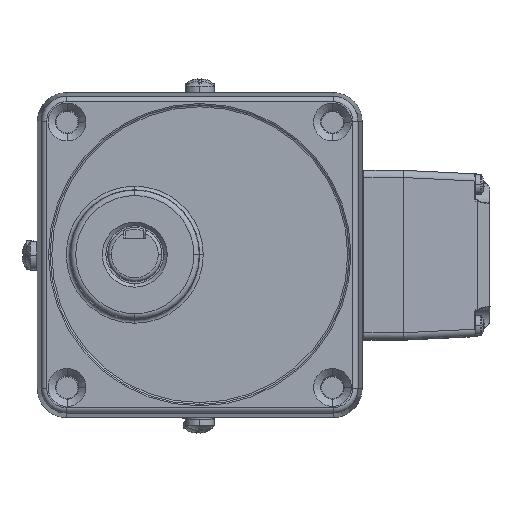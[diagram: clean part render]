
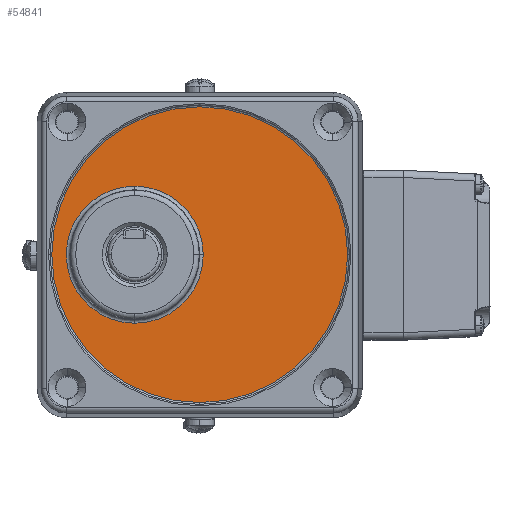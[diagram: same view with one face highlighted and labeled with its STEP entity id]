
A CAD part, top view. The second image highlights one B-rep face of the part: STEP entity #54841.
In plain terms, the highlighted planar face has unit normal (0, 0, 1) as drawn and (1, 0, 0) by its records, which use the part's own axes.
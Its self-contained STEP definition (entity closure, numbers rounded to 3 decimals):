
#913 = AXIS2_PLACEMENT_3D ( 'NONE', #11610, #46456, #34000 ) ;
#1804 = CIRCLE ( 'NONE', #913, 18.983 ) ;
#2780 = DIRECTION ( 'NONE',  ( 0., 0., 1. ) ) ;
#5856 = CARTESIAN_POINT ( 'NONE',  ( 2703.292, -793.157, 18.983 ) ) ;
#6134 = VERTEX_POINT ( 'NONE', #39162 ) ;
#6203 = EDGE_LOOP ( 'NONE', ( #15947, #45541, #19170 ) ) ;
#8407 = DIRECTION ( 'NONE',  ( 0., 0., 1. ) ) ;
#10325 = CARTESIAN_POINT ( 'NONE',  ( 2703.292, -775.157, -40.991 ) ) ;
#11043 = DIRECTION ( 'NONE',  ( 0., 0., 1. ) ) ;
#11610 = CARTESIAN_POINT ( 'NONE',  ( 2703.292, -793.157, 0. ) ) ;
#13164 = DIRECTION ( 'NONE',  ( 0., 0., -1. ) ) ;
#13183 = DIRECTION ( 'NONE',  ( 1., 0., 0. ) ) ;
#13802 = ORIENTED_EDGE ( 'NONE', *, *, #38728, .F. ) ;
#14647 = EDGE_CURVE ( 'NONE', #17825, #6134, #46728, .T. ) ;
#15389 = DIRECTION ( 'NONE',  ( 1., 0., 0. ) ) ;
#15470 = CARTESIAN_POINT ( 'NONE',  ( 2703.292, -774.175, 0. ) ) ;
#15761 = CARTESIAN_POINT ( 'NONE',  ( 2703.292, -793.157, -18.983 ) ) ;
#15947 = ORIENTED_EDGE ( 'NONE', *, *, #17895, .F. ) ;
#16203 = FACE_OUTER_BOUND ( 'NONE', #6203, .T. ) ;
#16918 = AXIS2_PLACEMENT_3D ( 'NONE', #52012, #13183, #8407 ) ;
#17457 = EDGE_CURVE ( 'NONE', #52399, #33079, #1804, .T. ) ;
#17825 = VERTEX_POINT ( 'NONE', #31324 ) ;
#17895 = EDGE_CURVE ( 'NONE', #47461, #17825, #27193, .T. ) ;
#19170 = ORIENTED_EDGE ( 'NONE', *, *, #14647, .F. ) ;
#19387 = EDGE_LOOP ( 'NONE', ( #51643, #13802, #44927 ) ) ;
#19758 = DIRECTION ( 'NONE',  ( -1., 0., 0. ) ) ;
#19933 = CARTESIAN_POINT ( 'NONE',  ( 2703.292, -793.157, 0. ) ) ;
#23285 = EDGE_CURVE ( 'NONE', #43927, #52399, #36594, .T. ) ;
#23894 = DIRECTION ( 'NONE',  ( 0., 0., -1. ) ) ;
#27193 = CIRCLE ( 'NONE', #30818, 40.991 ) ;
#27513 = CARTESIAN_POINT ( 'NONE',  ( 2703.292, -775.157, 0. ) ) ;
#29271 = PLANE ( 'NONE',  #43550 ) ;
#30818 = AXIS2_PLACEMENT_3D ( 'NONE', #51993, #31049, #13164 ) ;
#31049 = DIRECTION ( 'NONE',  ( -1., 0., 0. ) ) ;
#31324 = CARTESIAN_POINT ( 'NONE',  ( 2703.292, -775.157, 40.991 ) ) ;
#32820 = CARTESIAN_POINT ( 'NONE',  ( 2703.292, -775.157, 0. ) ) ;
#33079 = VERTEX_POINT ( 'NONE', #5856 ) ;
#34000 = DIRECTION ( 'NONE',  ( 0., 0., -1. ) ) ;
#36594 = CIRCLE ( 'NONE', #42017, 18.983 ) ;
#36855 = CIRCLE ( 'NONE', #16918, 18.983 ) ;
#37227 = DIRECTION ( 'NONE',  ( 1., 0., 0. ) ) ;
#38045 = CARTESIAN_POINT ( 'NONE',  ( 2703.292, -775.157, 0. ) ) ;
#38728 = EDGE_CURVE ( 'NONE', #33079, #43927, #36855, .T. ) ;
#39162 = CARTESIAN_POINT ( 'NONE',  ( 2703.292, -734.166, 0. ) ) ;
#42017 = AXIS2_PLACEMENT_3D ( 'NONE', #19933, #37227, #23894 ) ;
#43550 = AXIS2_PLACEMENT_3D ( 'NONE', #38045, #15389, #55022 ) ;
#43927 = VERTEX_POINT ( 'NONE', #15761 ) ;
#44028 = AXIS2_PLACEMENT_3D ( 'NONE', #32820, #19758, #2780 ) ;
#44077 = AXIS2_PLACEMENT_3D ( 'NONE', #27513, #45054, #11043 ) ;
#44927 = ORIENTED_EDGE ( 'NONE', *, *, #17457, .F. ) ;
#45054 = DIRECTION ( 'NONE',  ( -1., 0., 0. ) ) ;
#45541 = ORIENTED_EDGE ( 'NONE', *, *, #49382, .F. ) ;
#45699 = FACE_BOUND ( 'NONE', #19387, .T. ) ;
#46456 = DIRECTION ( 'NONE',  ( 1., 0., 0. ) ) ;
#46728 = CIRCLE ( 'NONE', #44028, 40.991 ) ;
#47461 = VERTEX_POINT ( 'NONE', #10325 ) ;
#49382 = EDGE_CURVE ( 'NONE', #6134, #47461, #54015, .T. ) ;
#51643 = ORIENTED_EDGE ( 'NONE', *, *, #23285, .F. ) ;
#51993 = CARTESIAN_POINT ( 'NONE',  ( 2703.292, -775.157, 0. ) ) ;
#52012 = CARTESIAN_POINT ( 'NONE',  ( 2703.292, -793.157, 0. ) ) ;
#52399 = VERTEX_POINT ( 'NONE', #15470 ) ;
#54015 = CIRCLE ( 'NONE', #44077, 40.991 ) ;
#54841 = ADVANCED_FACE ( 'NONE', ( #16203, #45699 ), #29271, .T. ) ;
#55022 = DIRECTION ( 'NONE',  ( 0., 1., 0. ) ) ;
